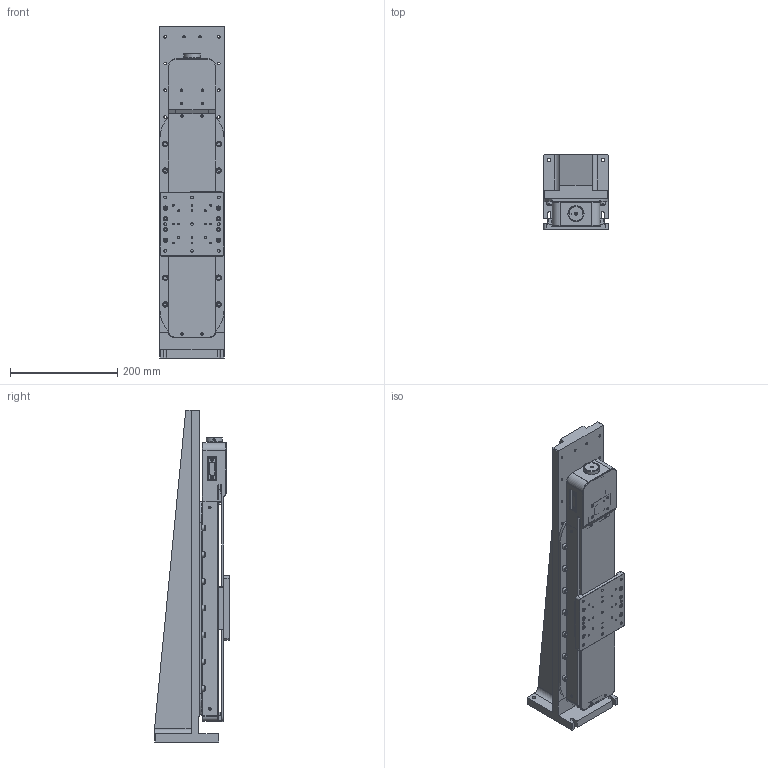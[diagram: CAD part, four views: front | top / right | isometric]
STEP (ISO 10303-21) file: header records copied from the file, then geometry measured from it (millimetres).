
FILE_DESCRIPTION((''),'2;1');
FILE_NAME('Z:\1規格品図面ﾃﾞｰﾀ\世界カタログ\OSMS\Z\HP_ﾀﾞｳﾝﾛｰﾄﾞ用\3D\OSMS33-300(Z)\OSMS33-300(Z)_STP.stp','2014-03-25T09:57:51',('kawashima'),(''),'Autodesk Inventor 2008','Autodesk Inventor 2008','');
FILE_SCHEMA(('AUTOMOTIVE_DESIGN { 1 0 10303 214 1 1 1 1 }'));
Length unit declared in the file: millimetre
Products named in the file (4): OS3330Z-M02-13001-TS01; OSZ-33; OS3330Z-M02-13001-S08; OS3330Z-M02-13001-S03
Assembly tree (3 placements, depth 2):
  OS3330Z-M02-13001-TS01
    OSZ-33
    OS3330Z-M02-13001-S08
    OS3330Z-M02-13001-S03
Bounding box: 120 x 140 x 620 mm (x, y, z)
Volume: 3895966.2 mm3; surface area: 796518 mm2
Topology: 3 solids, 100 shells, 2681 faces, 6583 edges, 4269 vertices
Faces by surface type: plane 1658, cylinder 396, bspline 369, cone 237, torus 18, sphere 3
Full cylindrical faces by diameter (mm): 1.567 x4, 2 x6, 2.113 x2, 2.5 x2, 2.6 x4, 3 x20, 3.5 x2, 3.8 x2, 4 x26, 4.5 x3, 5 x16, 5.3 x4, 5.5 x14, 6 x22, 6.5 x2, 7 x12, 8.5 x12, 10 x16, 13.6 x1, 16 x1, 22 x1, 26 x1, 30 x2
Entity records: 78231 total; most frequent: CARTESIAN_POINT 19468, DIRECTION 11648, ORIENTED_EDGE 11308, EDGE_CURVE 5654, VERTEX_POINT 3960, AXIS2_PLACEMENT_3D 3951, EDGE_LOOP 3766, VECTOR 3746
